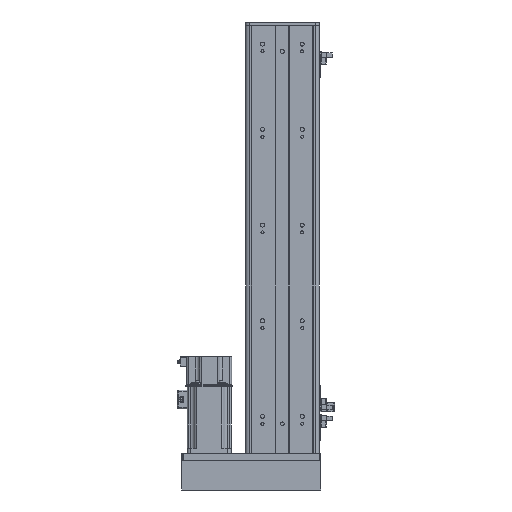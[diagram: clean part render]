
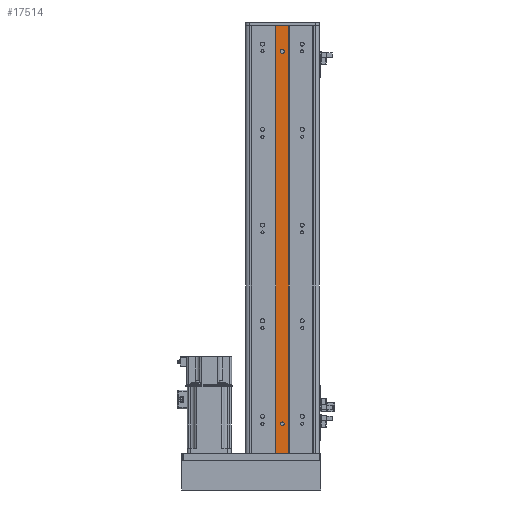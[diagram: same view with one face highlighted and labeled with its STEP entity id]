
A CAD part, front view. The second image highlights one B-rep face of the part: STEP entity #17514.
In plain terms, the highlighted planar face has unit normal (0, -1, 0).
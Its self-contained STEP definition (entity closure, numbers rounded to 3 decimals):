
#540 = FACE_BOUND ( 'NONE', #28900, .T. ) ;
#1182 = CARTESIAN_POINT ( 'NONE',  ( -9., 1.309, 130. ) ) ;
#1318 = VECTOR ( 'NONE', #66569, 1000. ) ;
#2310 = DIRECTION ( 'NONE',  ( 0., 0., 1. ) ) ;
#2643 = CARTESIAN_POINT ( 'NONE',  ( 0., 1.309, 170. ) ) ;
#2837 = DIRECTION ( 'NONE',  ( 0., 1., 0. ) ) ;
#3536 = AXIS2_PLACEMENT_3D ( 'NONE', #40760, #40983, #20301 ) ;
#6169 = EDGE_CURVE ( 'NONE', #37279, #17600, #8038, .T. ) ;
#7002 = VECTOR ( 'NONE', #41467, 1000. ) ;
#8038 = LINE ( 'NONE', #34222, #60322 ) ;
#8294 = LINE ( 'NONE', #37687, #34752 ) ;
#8611 = CARTESIAN_POINT ( 'NONE',  ( 2.5, 1.309, 711. ) ) ;
#8668 = DIRECTION ( 'NONE',  ( 0., 1., 0. ) ) ;
#8682 = EDGE_LOOP ( 'NONE', ( #44005, #12945, #49247, #41096 ) ) ;
#9114 = EDGE_CURVE ( 'NONE', #10844, #37279, #33378, .T. ) ;
#9406 = DIRECTION ( 'NONE',  ( 0., 0., 1. ) ) ;
#9639 = CARTESIAN_POINT ( 'NONE',  ( -9., 1.309, 711. ) ) ;
#10844 = VERTEX_POINT ( 'NONE', #21207 ) ;
#12945 = ORIENTED_EDGE ( 'NONE', *, *, #46547, .T. ) ;
#14049 = EDGE_LOOP ( 'NONE', ( #64072, #35516, #35762, #30890 ) ) ;
#14459 = CIRCLE ( 'NONE', #40028, 2.5 ) ;
#15407 = FACE_BOUND ( 'NONE', #8682, .T. ) ;
#17514 = ADVANCED_FACE ( 'NONE', ( #15407, #540, #24507 ), #50792, .F. ) ;
#17580 = DIRECTION ( 'NONE',  ( 0., 0., -1. ) ) ;
#17600 = VERTEX_POINT ( 'NONE', #62636 ) ;
#18321 = DIRECTION ( 'NONE',  ( 0., 0., 1. ) ) ;
#18483 = VECTOR ( 'NONE', #17580, 1000. ) ;
#18732 = ORIENTED_EDGE ( 'NONE', *, *, #67907, .T. ) ;
#19053 = AXIS2_PLACEMENT_3D ( 'NONE', #46394, #8668, #24804 ) ;
#19606 = EDGE_CURVE ( 'NONE', #35906, #48724, #14459, .T. ) ;
#19642 = CARTESIAN_POINT ( 'NONE',  ( -2.5, 1.309, 675.5 ) ) ;
#20212 = DIRECTION ( 'NONE',  ( 0., 1., 0. ) ) ;
#20301 = DIRECTION ( 'NONE',  ( 0., 0., 1. ) ) ;
#21207 = CARTESIAN_POINT ( 'NONE',  ( 2.5, 1.309, 675.5 ) ) ;
#21980 = CARTESIAN_POINT ( 'NONE',  ( 9., 1.309, 711. ) ) ;
#22707 = CARTESIAN_POINT ( 'NONE',  ( 9., 1.309, 130. ) ) ;
#24507 = FACE_OUTER_BOUND ( 'NONE', #14049, .T. ) ;
#24804 = DIRECTION ( 'NONE',  ( 0., 0., 1. ) ) ;
#28900 = EDGE_LOOP ( 'NONE', ( #18732, #35621 ) ) ;
#29388 = CARTESIAN_POINT ( 'NONE',  ( 0., 1.309, 711. ) ) ;
#30421 = DIRECTION ( 'NONE',  ( 0., 0., -1. ) ) ;
#30523 = CARTESIAN_POINT ( 'NONE',  ( -9., 1.309, 711. ) ) ;
#30890 = ORIENTED_EDGE ( 'NONE', *, *, #40242, .T. ) ;
#31307 = EDGE_CURVE ( 'NONE', #56441, #57506, #32571, .T. ) ;
#32571 = LINE ( 'NONE', #21980, #18483 ) ;
#32781 = VECTOR ( 'NONE', #30421, 1000. ) ;
#33378 = CIRCLE ( 'NONE', #68559, 2.5 ) ;
#34222 = CARTESIAN_POINT ( 'NONE',  ( -2.5, 1.309, 711. ) ) ;
#34752 = VECTOR ( 'NONE', #52795, 1000. ) ;
#35223 = LINE ( 'NONE', #8611, #1318 ) ;
#35516 = ORIENTED_EDGE ( 'NONE', *, *, #31307, .F. ) ;
#35621 = ORIENTED_EDGE ( 'NONE', *, *, #19606, .T. ) ;
#35746 = CIRCLE ( 'NONE', #3536, 2.5 ) ;
#35762 = ORIENTED_EDGE ( 'NONE', *, *, #65760, .F. ) ;
#35906 = VERTEX_POINT ( 'NONE', #52135 ) ;
#37279 = VERTEX_POINT ( 'NONE', #19642 ) ;
#37687 = CARTESIAN_POINT ( 'NONE',  ( 0., 1.309, 130. ) ) ;
#39908 = DIRECTION ( 'NONE',  ( 0., 1., 0. ) ) ;
#40028 = AXIS2_PLACEMENT_3D ( 'NONE', #2643, #39908, #18321 ) ;
#40242 = EDGE_CURVE ( 'NONE', #56315, #54993, #63549, .T. ) ;
#40760 = CARTESIAN_POINT ( 'NONE',  ( 0., 1.309, 676.5 ) ) ;
#40983 = DIRECTION ( 'NONE',  ( 0., 1., 0. ) ) ;
#41096 = ORIENTED_EDGE ( 'NONE', *, *, #9114, .T. ) ;
#41467 = DIRECTION ( 'NONE',  ( 1., 0., 0. ) ) ;
#44005 = ORIENTED_EDGE ( 'NONE', *, *, #6169, .T. ) ;
#44209 = CARTESIAN_POINT ( 'NONE',  ( 2.5, 1.309, 170. ) ) ;
#46394 = CARTESIAN_POINT ( 'NONE',  ( 0., 1.309, 170. ) ) ;
#46547 = EDGE_CURVE ( 'NONE', #17600, #52566, #35746, .T. ) ;
#47577 = LINE ( 'NONE', #30523, #7002 ) ;
#48724 = VERTEX_POINT ( 'NONE', #44209 ) ;
#49247 = ORIENTED_EDGE ( 'NONE', *, *, #51540, .T. ) ;
#50792 = PLANE ( 'NONE',  #55068 ) ;
#51540 = EDGE_CURVE ( 'NONE', #52566, #10844, #35223, .T. ) ;
#51811 = CARTESIAN_POINT ( 'NONE',  ( 0., 1.309, 675.5 ) ) ;
#52135 = CARTESIAN_POINT ( 'NONE',  ( -2.5, 1.309, 170. ) ) ;
#52348 = CIRCLE ( 'NONE', #19053, 2.5 ) ;
#52566 = VERTEX_POINT ( 'NONE', #53738 ) ;
#52795 = DIRECTION ( 'NONE',  ( -1., 0., 0. ) ) ;
#53738 = CARTESIAN_POINT ( 'NONE',  ( 2.5, 1.309, 676.5 ) ) ;
#54993 = VERTEX_POINT ( 'NONE', #1182 ) ;
#55068 = AXIS2_PLACEMENT_3D ( 'NONE', #29388, #2837, #66337 ) ;
#56315 = VERTEX_POINT ( 'NONE', #67728 ) ;
#56441 = VERTEX_POINT ( 'NONE', #57503 ) ;
#57503 = CARTESIAN_POINT ( 'NONE',  ( 9., 1.309, 711. ) ) ;
#57506 = VERTEX_POINT ( 'NONE', #22707 ) ;
#60322 = VECTOR ( 'NONE', #2310, 1000. ) ;
#60492 = EDGE_CURVE ( 'NONE', #57506, #54993, #8294, .T. ) ;
#62636 = CARTESIAN_POINT ( 'NONE',  ( -2.5, 1.309, 676.5 ) ) ;
#63549 = LINE ( 'NONE', #9639, #32781 ) ;
#64072 = ORIENTED_EDGE ( 'NONE', *, *, #60492, .F. ) ;
#65760 = EDGE_CURVE ( 'NONE', #56315, #56441, #47577, .T. ) ;
#66337 = DIRECTION ( 'NONE',  ( 0., 0., 1. ) ) ;
#66569 = DIRECTION ( 'NONE',  ( 0., 0., -1. ) ) ;
#67728 = CARTESIAN_POINT ( 'NONE',  ( -9., 1.309, 711. ) ) ;
#67907 = EDGE_CURVE ( 'NONE', #48724, #35906, #52348, .T. ) ;
#68559 = AXIS2_PLACEMENT_3D ( 'NONE', #51811, #20212, #9406 ) ;
